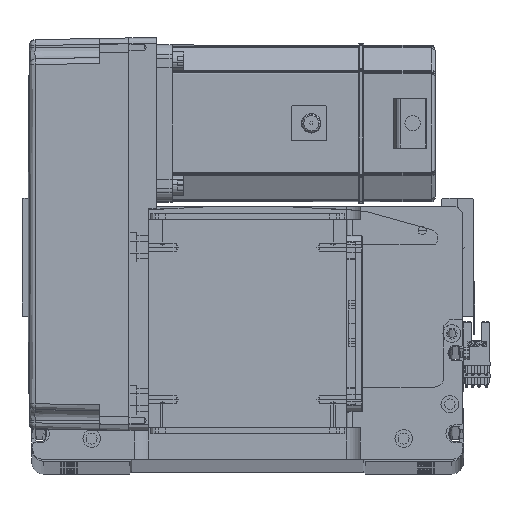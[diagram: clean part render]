
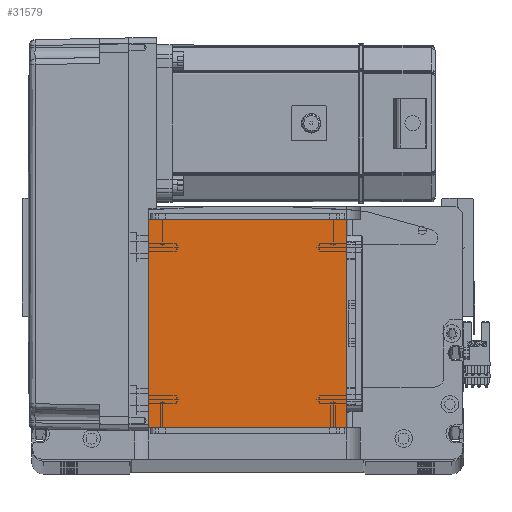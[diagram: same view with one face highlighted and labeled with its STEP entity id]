
A CAD part, top view. The second image highlights one B-rep face of the part: STEP entity #31579.
In plain terms, the highlighted planar face has unit normal (0, 0, 1).
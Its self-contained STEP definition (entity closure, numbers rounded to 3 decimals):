
#3483 = VECTOR ( 'NONE', #27990, 1000. ) ;
#9109 = EDGE_CURVE ( 'NONE', #56147, #40675, #57299, .T. ) ;
#9111 = FACE_OUTER_BOUND ( 'NONE', #53537, .T. ) ;
#10642 = ORIENTED_EDGE ( 'NONE', *, *, #11202, .T. ) ;
#11202 = EDGE_CURVE ( 'NONE', #46529, #57718, #30685, .T. ) ;
#12786 = CARTESIAN_POINT ( 'NONE',  ( 50.5, 16., 115. ) ) ;
#15714 = PLANE ( 'NONE',  #59872 ) ;
#16245 = CARTESIAN_POINT ( 'NONE',  ( 50.5, 122., 115. ) ) ;
#23743 = CARTESIAN_POINT ( 'NONE',  ( -50.5, 122., 115. ) ) ;
#24324 = VECTOR ( 'NONE', #48466, 1000. ) ;
#24442 = CARTESIAN_POINT ( 'NONE',  ( -50.5, 122., 115. ) ) ;
#25120 = EDGE_CURVE ( 'NONE', #57718, #56147, #26586, .T. ) ;
#26586 = LINE ( 'NONE', #23743, #47179 ) ;
#27990 = DIRECTION ( 'NONE',  ( 0., 1., 0. ) ) ;
#30685 = LINE ( 'NONE', #60621, #3483 ) ;
#31240 = CARTESIAN_POINT ( 'NONE',  ( -50.5, 122., 115. ) ) ;
#31579 = ADVANCED_FACE ( 'NONE', ( #9111 ), #15714, .T. ) ;
#33822 = DIRECTION ( 'NONE',  ( -1., 0., 0. ) ) ;
#34304 = CARTESIAN_POINT ( 'NONE',  ( -50.5, 16., 115. ) ) ;
#38186 = EDGE_CURVE ( 'NONE', #40675, #46529, #40506, .T. ) ;
#38928 = VECTOR ( 'NONE', #57517, 1000. ) ;
#39127 = CARTESIAN_POINT ( 'NONE',  ( 0., 0., 115. ) ) ;
#40506 = LINE ( 'NONE', #34304, #24324 ) ;
#40675 = VERTEX_POINT ( 'NONE', #48534 ) ;
#42647 = DIRECTION ( 'NONE',  ( 0., 0., 1. ) ) ;
#45627 = ORIENTED_EDGE ( 'NONE', *, *, #25120, .T. ) ;
#46529 = VERTEX_POINT ( 'NONE', #12786 ) ;
#47179 = VECTOR ( 'NONE', #33822, 1000. ) ;
#48466 = DIRECTION ( 'NONE',  ( 1., 0., 0. ) ) ;
#48534 = CARTESIAN_POINT ( 'NONE',  ( -50.5, 16., 115. ) ) ;
#49336 = ORIENTED_EDGE ( 'NONE', *, *, #38186, .T. ) ;
#51618 = DIRECTION ( 'NONE',  ( 1., 0., 0. ) ) ;
#53537 = EDGE_LOOP ( 'NONE', ( #60000, #49336, #10642, #45627 ) ) ;
#56147 = VERTEX_POINT ( 'NONE', #31240 ) ;
#57299 = LINE ( 'NONE', #24442, #38928 ) ;
#57517 = DIRECTION ( 'NONE',  ( 0., -1., 0. ) ) ;
#57718 = VERTEX_POINT ( 'NONE', #16245 ) ;
#59872 = AXIS2_PLACEMENT_3D ( 'NONE', #39127, #42647, #51618 ) ;
#60000 = ORIENTED_EDGE ( 'NONE', *, *, #9109, .T. ) ;
#60621 = CARTESIAN_POINT ( 'NONE',  ( 50.5, 122., 115. ) ) ;
